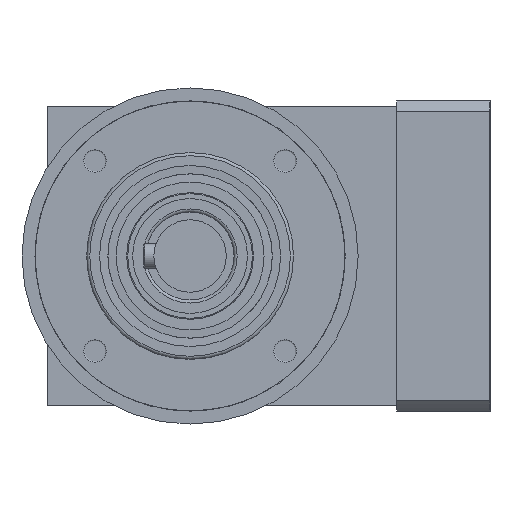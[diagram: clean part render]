
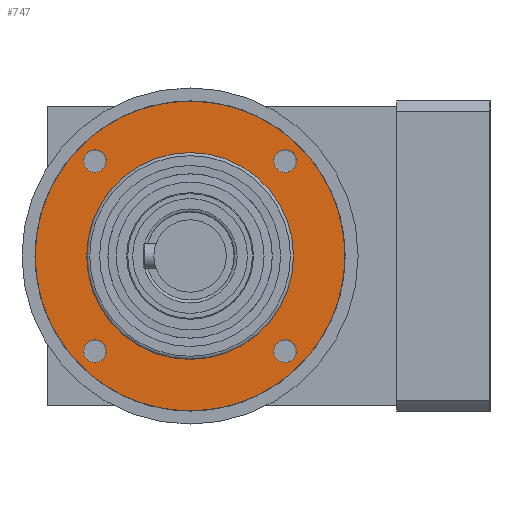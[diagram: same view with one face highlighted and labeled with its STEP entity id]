
A CAD part, left-side view. The second image highlights one B-rep face of the part: STEP entity #747.
In plain terms, the highlighted planar face has unit normal (-1, 0, 0).
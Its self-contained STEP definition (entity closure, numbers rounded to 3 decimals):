
#577=FACE_BOUND('',#1098,.T.);
#578=FACE_BOUND('',#1099,.T.);
#579=FACE_BOUND('',#1100,.T.);
#580=FACE_BOUND('',#1101,.T.);
#581=FACE_BOUND('',#1102,.T.);
#747=ADVANCED_FACE('',(#577,#578,#579,#580,#581),#815,.T.);
#815=PLANE('',#2303);
#1098=EDGE_LOOP('',(#1498));
#1099=EDGE_LOOP('',(#1499));
#1100=EDGE_LOOP('',(#1500));
#1101=EDGE_LOOP('',(#1501));
#1102=EDGE_LOOP('',(#1502));
#1498=ORIENTED_EDGE('',*,*,#1896,.T.);
#1499=ORIENTED_EDGE('',*,*,#1897,.T.);
#1500=ORIENTED_EDGE('',*,*,#1898,.T.);
#1501=ORIENTED_EDGE('',*,*,#1899,.T.);
#1502=ORIENTED_EDGE('',*,*,#1900,.T.);
#1692=VERTEX_POINT('',#3557);
#1693=VERTEX_POINT('',#3559);
#1694=VERTEX_POINT('',#3561);
#1695=VERTEX_POINT('',#3563);
#1696=VERTEX_POINT('',#3565);
#1896=EDGE_CURVE('',#1692,#1692,#2027,.T.);
#1897=EDGE_CURVE('',#1693,#1693,#2028,.T.);
#1898=EDGE_CURVE('',#1694,#1694,#2029,.T.);
#1899=EDGE_CURVE('',#1695,#1695,#2030,.T.);
#1900=EDGE_CURVE('',#1696,#1696,#2031,.T.);
#2027=CIRCLE('',#2298,2.175);
#2028=CIRCLE('',#2299,2.175);
#2029=CIRCLE('',#2300,2.175);
#2030=CIRCLE('',#2301,2.175);
#2031=CIRCLE('',#2302,30.);
#2298=AXIS2_PLACEMENT_3D('',#3556,#2907,#2908);
#2299=AXIS2_PLACEMENT_3D('',#3558,#2909,#2910);
#2300=AXIS2_PLACEMENT_3D('',#3560,#2911,#2912);
#2301=AXIS2_PLACEMENT_3D('',#3562,#2913,#2914);
#2302=AXIS2_PLACEMENT_3D('',#3564,#2915,#2916);
#2303=AXIS2_PLACEMENT_3D('',#3566,#2917,#2918);
#2907=DIRECTION('',(1.,0.,0.));
#2908=DIRECTION('',(0.,-0.707,0.707));
#2909=DIRECTION('',(1.,0.,0.));
#2910=DIRECTION('',(0.,-0.707,-0.707));
#2911=DIRECTION('',(1.,0.,0.));
#2912=DIRECTION('',(0.,0.707,-0.707));
#2913=DIRECTION('',(1.,0.,0.));
#2914=DIRECTION('',(0.,0.707,0.707));
#2915=DIRECTION('',(-1.,0.,0.));
#2916=DIRECTION('',(0.,0.707,0.707));
#2917=DIRECTION('',(-1.,0.,0.));
#2918=DIRECTION('',(0.,0.707,0.707));
#3556=CARTESIAN_POINT('',(-57.55,18.385,18.385));
#3557=CARTESIAN_POINT('',(-57.55,16.847,19.923));
#3558=CARTESIAN_POINT('',(-57.55,-18.385,18.385));
#3559=CARTESIAN_POINT('',(-57.55,-19.923,16.847));
#3560=CARTESIAN_POINT('',(-57.55,-18.385,-18.385));
#3561=CARTESIAN_POINT('',(-57.55,-16.847,-19.923));
#3562=CARTESIAN_POINT('',(-57.55,18.385,-18.385));
#3563=CARTESIAN_POINT('',(-57.55,19.923,-16.847));
#3564=CARTESIAN_POINT('',(-57.55,0.,0.));
#3565=CARTESIAN_POINT('',(-57.55,21.213,21.213));
#3566=CARTESIAN_POINT('',(-57.55,0.,0.));
